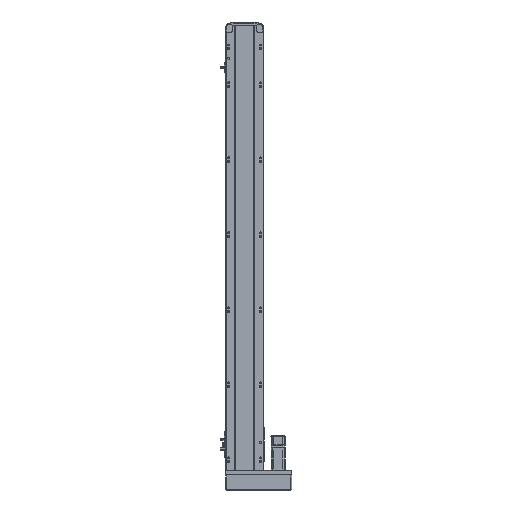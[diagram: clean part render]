
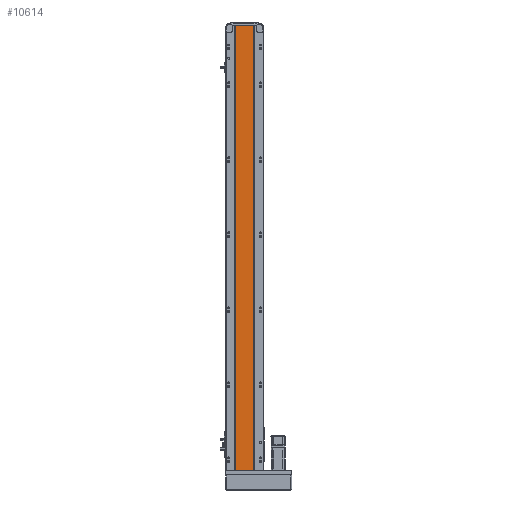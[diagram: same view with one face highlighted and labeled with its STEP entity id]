
A CAD part, front view. The second image highlights one B-rep face of the part: STEP entity #10614.
In plain terms, the highlighted planar face has unit normal (0, -1, 0).
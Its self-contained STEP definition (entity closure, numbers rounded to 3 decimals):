
#5018 = VECTOR ( 'NONE', #46088, 1000. ) ;
#10614 = ADVANCED_FACE ( 'NONE', ( #54590 ), #50498, .F. ) ;
#12684 = VERTEX_POINT ( 'NONE', #22405 ) ;
#13162 = DIRECTION ( 'NONE',  ( 0., 0., 1. ) ) ;
#13986 = ORIENTED_EDGE ( 'NONE', *, *, #24066, .F. ) ;
#15326 = CARTESIAN_POINT ( 'NONE',  ( -24.5, 2., 1187. ) ) ;
#15881 = DIRECTION ( 'NONE',  ( 0., 0., -1. ) ) ;
#15917 = DIRECTION ( 'NONE',  ( 1., 0., 0. ) ) ;
#20553 = CARTESIAN_POINT ( 'NONE',  ( -24.5, 2., 1187. ) ) ;
#21099 = CARTESIAN_POINT ( 'NONE',  ( -24.5, 2., 1187. ) ) ;
#21182 = LINE ( 'NONE', #20553, #26256 ) ;
#22339 = LINE ( 'NONE', #59610, #5018 ) ;
#22405 = CARTESIAN_POINT ( 'NONE',  ( 24.5, 2., 0. ) ) ;
#22533 = VERTEX_POINT ( 'NONE', #40205 ) ;
#22771 = AXIS2_PLACEMENT_3D ( 'NONE', #54775, #27136, #13162 ) ;
#23954 = VECTOR ( 'NONE', #40763, 1000. ) ;
#24066 = EDGE_CURVE ( 'NONE', #27302, #12684, #22339, .T. ) ;
#26256 = VECTOR ( 'NONE', #15917, 1000. ) ;
#26412 = ORIENTED_EDGE ( 'NONE', *, *, #41231, .F. ) ;
#27136 = DIRECTION ( 'NONE',  ( 0., 1., 0. ) ) ;
#27302 = VERTEX_POINT ( 'NONE', #34558 ) ;
#31908 = CARTESIAN_POINT ( 'NONE',  ( 0., 2., 0. ) ) ;
#34558 = CARTESIAN_POINT ( 'NONE',  ( 24.5, 2., 1187. ) ) ;
#36258 = LINE ( 'NONE', #31908, #23954 ) ;
#37686 = EDGE_CURVE ( 'NONE', #42693, #22533, #45510, .T. ) ;
#40205 = CARTESIAN_POINT ( 'NONE',  ( -24.5, 2., 0. ) ) ;
#40763 = DIRECTION ( 'NONE',  ( 1., 0., 0. ) ) ;
#41231 = EDGE_CURVE ( 'NONE', #42693, #27302, #21182, .T. ) ;
#42693 = VERTEX_POINT ( 'NONE', #15326 ) ;
#44232 = EDGE_CURVE ( 'NONE', #22533, #12684, #36258, .T. ) ;
#45510 = LINE ( 'NONE', #21099, #52038 ) ;
#46088 = DIRECTION ( 'NONE',  ( 0., 0., -1. ) ) ;
#48604 = EDGE_LOOP ( 'NONE', ( #48670, #13986, #26412, #55430 ) ) ;
#48670 = ORIENTED_EDGE ( 'NONE', *, *, #44232, .T. ) ;
#50498 = PLANE ( 'NONE',  #22771 ) ;
#52038 = VECTOR ( 'NONE', #15881, 1000. ) ;
#54590 = FACE_OUTER_BOUND ( 'NONE', #48604, .T. ) ;
#54775 = CARTESIAN_POINT ( 'NONE',  ( 0., 2., 1187. ) ) ;
#55430 = ORIENTED_EDGE ( 'NONE', *, *, #37686, .T. ) ;
#59610 = CARTESIAN_POINT ( 'NONE',  ( 24.5, 2., 1187. ) ) ;
